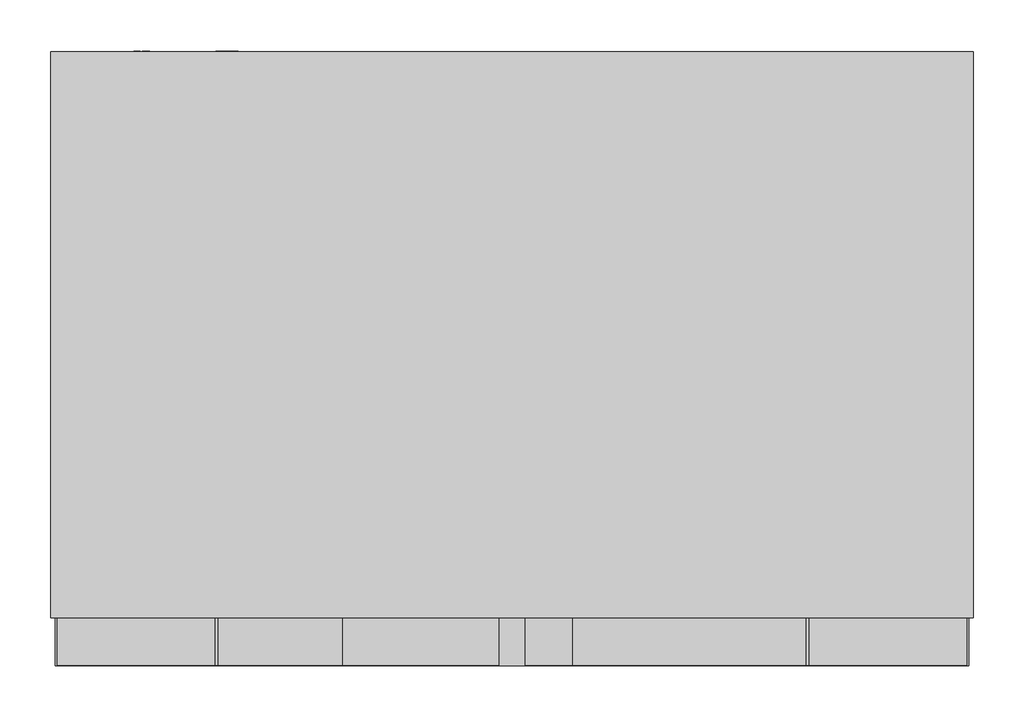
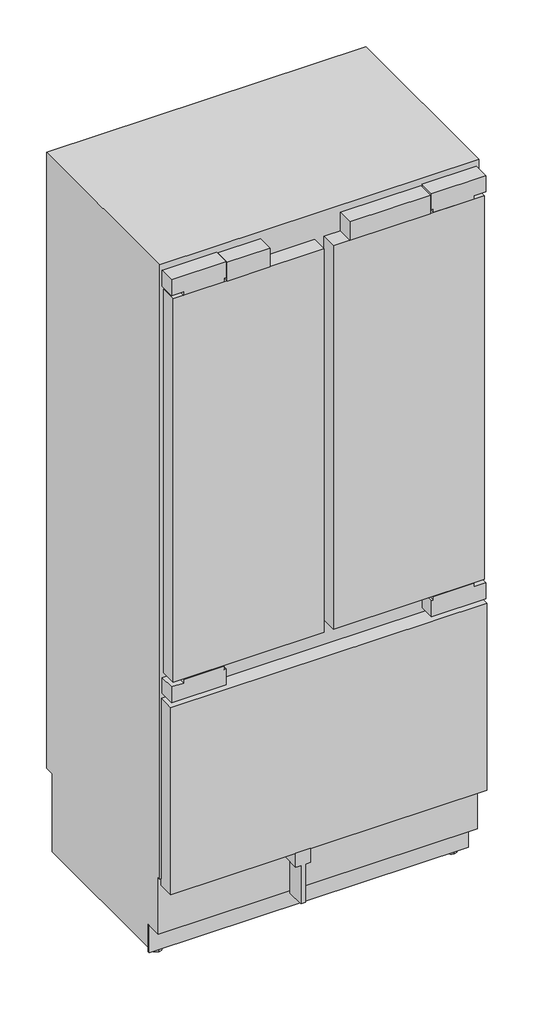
# Not in any storey: 1 proxy.
"""IFC4 building model written with IfcOpenShell, lengths in millimetres."""

import ifcopenshell
import ifcopenshell.guid

model = None  # the IFC model being written
_history = None  # IfcOwnerHistory: only IFC2X3 demands one
_inside = {}  # id of a spatial element -> (the spatial element, [elements in it])
_under = {}  # id of a project, library or spatial element -> (it, [spatial elements below it])
_declared = {}  # id of a project -> (the project, [libraries it declares])
_typed = {}  # id of a type object -> (the type object, [elements of that type])
_made_of = {}  # id of a material, layer set ... -> (it, [elements and type objects made of it])


def new_model(schema):
    """Start an empty IFC model of exactly this schema.

    Asked for "IFC4X3", IfcOpenShell would pick the latest addendum, in which some entities
    have other attributes; the version numbers below select the first issue.
    IFC2X3 requires an IfcOwnerHistory on every rooted entity: one is made here for all.
    """
    global model, _history
    if schema == "IFC4X3":
        model = ifcopenshell.file(schema_version=(4, 3, 0, 0))
    else:
        model = ifcopenshell.file(schema=schema)
    _inside.clear()
    _under.clear()
    _declared.clear()
    _typed.clear()
    _made_of.clear()
    _history = None
    if model.schema == "IFC2X3":
        org = make("IfcOrganization", Name="unknown")
        user = make(
            "IfcPersonAndOrganization",
            ThePerson=make("IfcPerson", FamilyName="unknown"),
            TheOrganization=org,
        )
        app = make(
            "IfcApplication",
            ApplicationDeveloper=org,
            Version="unknown",
            ApplicationFullName="unknown",
            ApplicationIdentifier="unknown",
        )
        _history = make(
            "IfcOwnerHistory",
            OwningUser=user,
            OwningApplication=app,
            ChangeAction="ADDED",
            CreationDate=0,
        )
    return model


def make(cls, **values):
    """One entity of the class cls with the attributes given. An attribute that is None is left unset."""
    return model.create_entity(
        cls, **{name: value for name, value in values.items() if value is not None}
    )


def rooted(cls, **values):
    """An entity with a GlobalId (a new one), such as an element, a storey or a relation."""
    return make(cls, GlobalId=ifcopenshell.guid.new(), OwnerHistory=_history, **values)


def si_unit(unit_type, name, prefix=None):
    """IfcSIUnit, for example si_unit("LENGTHUNIT", "METRE", prefix="MILLI")."""
    return make("IfcSIUnit", UnitType=unit_type, Prefix=prefix, Name=name)


def assignment(units):
    """IfcUnitAssignment: the units of a project."""
    return None if units is None else make("IfcUnitAssignment", Units=units)


def point(xyz):
    """IfcCartesianPoint."""
    return None if xyz is None else make("IfcCartesianPoint", Coordinates=xyz)


def direction(xyz):
    """IfcDirection."""
    return None if xyz is None else make("IfcDirection", DirectionRatios=xyz)


def frame(location, z_axis=None, x_axis=None):
    """IfcAxis2Placement3D, a coordinate frame: its origin and axes. An axis left out is left unset."""
    return make(
        "IfcAxis2Placement3D",
        Location=point(location),
        Axis=direction(z_axis),
        RefDirection=direction(x_axis),
    )


def frame_2d(location, x_axis=None):
    """IfcAxis2Placement2D, a coordinate frame in the plane: its origin and x axis."""
    return make(
        "IfcAxis2Placement2D", Location=point(location), RefDirection=direction(x_axis)
    )


def origin():
    """The frame at (0, 0, 0) with its axes left unset."""
    return frame((0.0, 0.0, 0.0))


def place(relative_to, where):
    """IfcLocalPlacement: puts the frame where relative to a parent placement (None: the world)."""
    return make(
        "IfcLocalPlacement", PlacementRelTo=relative_to, RelativePlacement=where
    )


def context(
    kind, dimensions, precision=None, world=None, true_north=None, identifier=None
):
    """IfcGeometricRepresentationContext, for example the 3D "Model" context."""
    return make(
        "IfcGeometricRepresentationContext",
        ContextIdentifier=identifier,
        ContextType=kind,
        CoordinateSpaceDimension=dimensions,
        Precision=precision,
        WorldCoordinateSystem=world,
        TrueNorth=true_north,
    )


def project(units=None, contexts=None):
    """IfcProject with its units and contexts."""
    return rooted(
        "IfcProject",
        Name="project",
        RepresentationContexts=contexts,
        UnitsInContext=assignment(units),
    )


def spatial(cls, under=None, at=None, **own):
    """A site, building, storey or space (cls), placed at a placement, below another one or the project."""
    s = rooted(cls, ObjectPlacement=at, **own)
    if under is not None:
        _under.setdefault(under.id(), (under, []))[1].append(s)
    return s


def polyline(points):
    """IfcPolyline through the points."""
    return make("IfcPolyline", Points=[point(p) for p in points])


def circle_curve(where, radius):
    """IfcCircle in the frame where."""
    return make("IfcCircle", Position=where, Radius=radius)


def trimmed(basis, trim1, trim2, sense, master):
    """IfcTrimmedCurve: the piece of a basis curve between two trims."""
    return make(
        "IfcTrimmedCurve",
        BasisCurve=basis,
        Trim1=trim1,
        Trim2=trim2,
        SenseAgreement=sense,
        MasterRepresentation=master,
    )


def segment(curve, same_sense, transition):
    """IfcCompositeCurveSegment."""
    return make(
        "IfcCompositeCurveSegment",
        Transition=transition,
        SameSense=same_sense,
        ParentCurve=curve,
    )


def composite_curve(segments, self_intersect=None):
    """IfcCompositeCurve: segments joined end to end."""
    return make("IfcCompositeCurve", Segments=segments, SelfIntersect=self_intersect)


def outline(outer, holes=None, kind="AREA"):
    """IfcArbitraryClosedProfileDef: a profile drawn as a closed curve; with holes, ...WithVoids."""
    if holes is None:
        return make("IfcArbitraryClosedProfileDef", ProfileType=kind, OuterCurve=outer)
    return make(
        "IfcArbitraryProfileDefWithVoids",
        ProfileType=kind,
        OuterCurve=outer,
        InnerCurves=holes,
    )


def extrude(swept, where, along, depth):
    """IfcExtrudedAreaSolid: the profile swept, set in the frame where, extruded along a direction by depth."""
    return make(
        "IfcExtrudedAreaSolid",
        SweptArea=swept,
        Position=where,
        ExtrudedDirection=direction(along),
        Depth=depth,
    )


def shape(context_of_items, identifier, shape_type, items):
    """IfcShapeRepresentation: the items that make up one representation, for example the "Body"."""
    return make(
        "IfcShapeRepresentation",
        ContextOfItems=context_of_items,
        RepresentationIdentifier=identifier,
        RepresentationType=shape_type,
        Items=items,
    )


def source(mapping_origin, context_of_items, identifier, shape_type, items):
    """IfcRepresentationMap: a shape defined once, which mapped items show again and again."""
    return make(
        "IfcRepresentationMap",
        MappingOrigin=mapping_origin,
        MappedRepresentation=shape(context_of_items, identifier, shape_type, items),
    )


def transform(
    local_origin,
    x_axis=None,
    y_axis=None,
    z_axis=None,
    scale=None,
    scale2=None,
    scale3=None,
    uniform=True,
):
    """IfcCartesianTransformationOperator3D, or its non-uniform kind. x_axis, y_axis, z_axis: its Axis1, 2, 3."""
    if uniform:
        return make(
            "IfcCartesianTransformationOperator3D",
            Axis1=direction(x_axis),
            Axis2=direction(y_axis),
            LocalOrigin=point(local_origin),
            Scale=scale,
            Axis3=direction(z_axis),
        )
    return make(
        "IfcCartesianTransformationOperator3DnonUniform",
        Axis1=direction(x_axis),
        Axis2=direction(y_axis),
        LocalOrigin=point(local_origin),
        Scale=scale,
        Axis3=direction(z_axis),
        Scale2=scale2,
        Scale3=scale3,
    )


def mapped(mapping_source, mapping_target):
    """IfcMappedItem: shows the shape of a source again, moved by a transform."""
    return make(
        "IfcMappedItem", MappingSource=mapping_source, MappingTarget=mapping_target
    )


def made_of(thing, what):
    """Note that an element or type object is made of a material, layer set ...; save() writes the relation."""
    if what is not None:
        _made_of.setdefault(what.id(), (what, []))[1].append(thing)
    return thing


def element(
    cls,
    number,
    at=None,
    inside=None,
    cuts=None,
    type_object=None,
    material=None,
    context=None,
    identifier="Body",
    shape_type=None,
    held_by="IfcProductDefinitionShape",
    body=None,
    shapes=None,
    **own,
):
    """One element of the class cls, such as IfcWall. Its Tag is "e" and its number.

    at: its placement. inside: the storey or other place that contains it. cuts: it is an
    opening in that element (IfcRelVoidsElement). A single representation is given by context,
    identifier, shape_type and body (its items); several are given by shapes. held_by: the class
    of the entity that holds the representations. save() writes the other relations.
    """
    e = rooted(cls, Tag="e%d" % number, ObjectPlacement=at, **own)
    if body is not None:
        shapes = [shape(context, identifier, shape_type, body)]
    if shapes is not None:
        e.Representation = make(held_by, Representations=shapes)
    if inside is not None:
        _inside.setdefault(inside.id(), (inside, []))[1].append(e)
    if cuts is not None:
        rooted(
            "IfcRelVoidsElement", RelatingBuildingElement=cuts, RelatedOpeningElement=e
        )
    if type_object is not None:
        _typed.setdefault(type_object.id(), (type_object, []))[1].append(e)
    return made_of(e, material)


def aggregate(whole, parts):
    """IfcRelAggregates: a whole, such as a stair, and the parts it consists of."""
    return rooted("IfcRelAggregates", RelatingObject=whole, RelatedObjects=parts)


def save(model, path):
    """Write the relations noted so far, then the file.

    IfcRelAggregates (storeys below a building ...), IfcRelContainedInSpatialStructure (elements
    in a storey), IfcRelDefinesByType, IfcRelAssociatesMaterial and IfcRelDeclares: one each for
    every whole, place, type object, material and project.
    """
    for whole, parts in _under.values():
        aggregate(whole, parts)
    for where, things in _inside.values():
        rooted(
            "IfcRelContainedInSpatialStructure",
            RelatedElements=things,
            RelatingStructure=where,
        )
    for kind, things in _typed.values():
        rooted("IfcRelDefinesByType", RelatedObjects=things, RelatingType=kind)
    for what, things in _made_of.values():
        rooted("IfcRelAssociatesMaterial", RelatedObjects=things, RelatingMaterial=what)
    for by, libraries in _declared.values():
        rooted("IfcRelDeclares", RelatingContext=by, RelatedDefinitions=libraries)
    model.write(path)


def plane_surface(at):
    """IfcPlane: the flat surface through the origin of the frame at, square to its z axis."""
    return make("IfcPlane", Position=at)


def cylinder_surface(at, radius):
    """IfcCylindricalSurface: all points at the distance radius from the z axis of the frame at."""
    return make("IfcCylindricalSurface", Position=at, Radius=radius)


def advanced_brep(points, edges, surfaces, faces):
    """IfcAdvancedBrep: a solid bounded by faces that lie on surfaces and meet in shared edges.

    An edge is (start, end): straight between two places in points (the first is 0);
    or (start, end, curve); or (start, end, curve, False) where it runs against its curve.
    A face is (place in surfaces, loops), or (place, loops, False) where it looks against
    its surface's normal. A loop lists edges by number (the first is 1), with a minus sign
    where the edge is run from its end to its start. The first loop is the outer one.
    """
    corners = [point(p) for p in points]
    vertices = [make("IfcVertexPoint", VertexGeometry=c) for c in corners]
    made = []
    for start, end, *more in edges:
        made.append(
            make(
                "IfcEdgeCurve",
                EdgeStart=vertices[start],
                EdgeEnd=vertices[end],
                EdgeGeometry=more[0] if more else make("IfcPolyline", Points=[corners[start], corners[end]]),
                SameSense=more[1] if len(more) > 1 else True,
            )
        )
    hull = []
    for where, loops, *sense in faces:
        bounds = []
        for j, loop in enumerate(loops):
            ring = [make("IfcOrientedEdge", EdgeElement=made[abs(k) - 1], Orientation=k > 0) for k in loop]
            bounds.append(
                make(
                    "IfcFaceOuterBound" if j == 0 else "IfcFaceBound",
                    Bound=make("IfcEdgeLoop", EdgeList=ring),
                    Orientation=True,
                )
            )
        hull.append(make("IfcAdvancedFace", Bounds=bounds, FaceSurface=surfaces[where], SameSense=sense[0] if sense else True))
    return make("IfcAdvancedBrep", Outer=make("IfcClosedShell", CfsFaces=hull))


def specialty_equipment_7bc0b81a(model_context):
    return source(origin(), model_context, "Body", "SolidModel", [
        extrude(outline(polyline([(60.0, 47.0), (289.0, 47.0), (289.0, 0.0), (60.0, 0.0), (60.0, 47.0)])), frame((0.0, 0.0, 2036.0), z_axis=(0.0, 0.0, 1.0), x_axis=(1.0, 0.0, 0.0)), (0.0, 0.0, 1.0), 56.0),
        extrude(outline(polyline([(-289.0, 47.0), (-167.0, 47.0), (-167.0, 0.0), (-289.0, 0.0), (-289.0, 47.0)])), frame((0.0, 0.0, 2036.0), z_axis=(0.0, 0.0, 1.0), x_axis=(1.0, 0.0, 0.0)), (0.0, 0.0, 1.0), 56.0),
        extrude(outline(polyline([(247.0, -94.0), (205.0, -94.0), (205.0, -79.5), (90.0, -79.5), (90.0, -66.5), (205.0, -66.5), (205.0, -52.0), (247.0, -52.0), (247.0, -94.0)])), frame((0.0, 0.0, 0.0), z_axis=(0.0, 1.0, 0.0), x_axis=(0.0, 0.0, 1.0)), (0.0, 0.0, 1.0), 54.0),
        extrude(outline(polyline([(-51.5, 90.0), (51.5, 90.0), (51.5, 47.0), (-51.5, 47.0), (-51.5, 90.0)])), frame((0.0, 0.0, 921.0), z_axis=(0.0, 0.0, 1.0), x_axis=(1.0, 0.0, 0.0)), (0.0, 0.0, 1.0), 1069.0),
        extrude(outline(polyline([(-443.0, 47.0), (-13.0, 47.0), (-13.0, 0.0), (-443.0, 0.0), (-443.0, 47.0)])), frame((0.0, 0.0, 883.0), z_axis=(0.0, 0.0, 1.0), x_axis=(1.0, 0.0, 0.0)), (0.0, 0.0, 1.0), 1153.0),
        extrude(outline(polyline([(13.0, 47.0), (443.0, 47.0), (443.0, 0.0), (13.0, 0.0), (13.0, 47.0)])), frame((0.0, 0.0, 883.0), z_axis=(0.0, 0.0, 1.0), x_axis=(1.0, 0.0, 0.0)), (0.0, 0.0, 1.0), 1153.0),
        extrude(outline(polyline([(-449.5, 47.0), (449.5, 47.0), (449.5, 0.0), (-449.5, 0.0), (-449.5, 47.0)])), frame((0.0, 0.0, 247.0), z_axis=(0.0, 0.0, 1.0), x_axis=(1.0, 0.0, 0.0)), (0.0, 0.0, 1.0), 562.0),
        extrude(outline(polyline([(180.5, 1973.4), (217.625, 1914.0), (216.4457524, 1914.0), (179.3207524, 1973.4), (180.5, 1973.4)])), frame((-69.0, 0.0, 0.0), z_axis=(1.0, 0.0, 0.0), x_axis=(0.0, 1.0, 0.0)), (0.0, 0.0, 1.0), 138.0),
        extrude(outline(polyline([(544.0, 1998.0), (544.0, 1796.0), (474.0, 1796.0), (433.0, 1907.0), (222.0, 1907.0), (177.0, 1979.0), (129.0, 1998.0), (544.0, 1998.0)])), frame((-408.0, 0.0, 0.0), z_axis=(1.0, 0.0, 0.0), x_axis=(0.0, 1.0, 0.0)), (0.0, 0.0, 1.0), 816.0),
        extrude(outline(polyline([(-408.0, 544.0), (408.0, 544.0), (408.0, 519.0), (-408.0, 519.0), (-408.0, 544.0)])), frame((0.0, 0.0, 303.0), z_axis=(0.0, 0.0, 1.0), x_axis=(1.0, 0.0, 0.0)), (0.0, 0.0, 1.0), 467.0),
        extrude(outline(polyline([(-408.0, 544.0), (408.0, 544.0), (408.0, 47.0), (-408.0, 47.0), (-408.0, 544.0)])), frame((0.0, 0.0, 770.0), z_axis=(0.0, 0.0, 1.0), x_axis=(1.0, 0.0, 0.0)), (0.0, 0.0, 1.0), 144.0),
        extrude(outline(polyline([(46.0510837, -279.101717), (37.4134902, -281.1745179), (46.0453554, -283.6868463), (46.0453554, -285.5601414), (37.4089549, -288.0799633), (46.0493903, -290.1581876), (46.0493903, -291.4649805), (36.0005458, -288.7156324), (36.0005458, -287.372208), (44.8261022, -284.6342221), (35.9987467, -282.0620509), (35.9987287, -280.5451466), (46.0510837, -277.800191), (46.0510837, -279.101717)])), frame((0.0, 604.0, 0.0), z_axis=(0.0, 1.0, 0.0), x_axis=(0.0, 0.0, 1.0)), (0.0, 0.0, 1.0), 1.0),
        extrude(outline(polyline([(46.0485238, -270.7401503), (41.1363122, -270.7401503), (46.0468162, -275.884602), (46.0468162, -277.6328316), (41.9156889, -273.3260313), (36.000035, -277.8032231), (36.000035, -276.2795519), (41.0742849, -272.4391666), (39.4525334, -270.7395503), (35.9999292, -270.7395503), (35.9999292, -269.4795491), (46.0485238, -269.4795491), (46.0485238, -270.7401503)])), frame((0.0, 604.0, 0.0), z_axis=(0.0, 1.0, 0.0), x_axis=(0.0, 0.0, 1.0)), (0.0, 0.0, 1.0), 1.0),
        extrude(outline(composite_curve([segment(trimmed(circle_curve(frame_2d((41.0, -280.0)), 7.5), [point((33.5, -280.0))], [point((48.5, -280.0))], False, "CARTESIAN"), True, "CONTINUOUS"), segment(trimmed(circle_curve(frame_2d((41.0, -280.0)), 7.5), [point((48.5, -280.0))], [point((33.5, -280.0))], False, "CARTESIAN"), True, "CONTINUOUS")], self_intersect=False)), frame((0.0, 577.0, 0.0), z_axis=(0.0, 1.0, 0.0), x_axis=(0.0, 0.0, 1.0)), (0.0, 0.0, 1.0), 27.0),
        extrude(outline(polyline([(2095.0, 447.5), (2095.0, 292.5), (2047.0, 292.5), (2047.0, 298.5), (2036.5, 298.5), (2036.5, 413.5), (2047.0, 413.5), (2047.0, 447.5), (2095.0, 447.5)])), frame((0.0, 0.0, 0.0), z_axis=(0.0, 1.0, 0.0), x_axis=(0.0, 0.0, 1.0)), (0.0, 0.0, 1.0), 47.0),
        extrude(outline(polyline([(2095.0, -447.5), (2047.0, -447.5), (2047.0, -413.5), (2036.5, -413.5), (2036.5, -298.5), (2047.0, -298.5), (2047.0, -292.5), (2095.0, -292.5), (2095.0, -447.5)])), frame((0.0, 0.0, 0.0), z_axis=(0.0, 1.0, 0.0), x_axis=(0.0, 0.0, 1.0)), (0.0, 0.0, 1.0), 47.0),
        extrude(outline(polyline([(871.0, -447.5), (823.0, -447.5), (823.0, -292.5), (871.0, -292.5), (871.0, -298.5), (881.0, -298.5), (881.0, -413.5), (871.0, -413.5), (871.0, -447.5)])), frame((0.0, 0.0, 0.0), z_axis=(0.0, 1.0, 0.0), x_axis=(0.0, 0.0, 1.0)), (0.0, 0.0, 1.0), 47.0),
        extrude(outline(polyline([(871.0, 292.5), (823.0, 292.5), (823.0, 447.5), (871.0, 447.5), (871.0, 413.5), (881.0, 413.5), (881.0, 298.5), (871.0, 298.5), (871.0, 292.5)])), frame((0.0, 0.0, 0.0), z_axis=(0.0, 1.0, 0.0), x_axis=(0.0, 0.0, 1.0)), (0.0, 0.0, 1.0), 47.0),
        extrude(outline(polyline([(99.0373308, -363.7645771), (97.7615342, -363.7645771), (97.7615342, -357.8195541), (94.7968516, -357.8195541), (94.7968516, -363.469579), (93.5246295, -363.469579), (93.5246295, -357.8415693), (90.2570046, -357.8415693), (90.2570046, -363.9619689), (88.9546219, -363.9619689), (88.9546219, -356.5443524), (99.0373308, -356.5443524), (99.0373308, -363.7645771)])), frame((0.0, 604.0, 0.0), z_axis=(0.0, 1.0, 0.0), x_axis=(0.0, 0.0, 1.0)), (0.0, 0.0, 1.0), 1.0),
        extrude(outline(polyline([(99.0458, -367.0619704), (90.2663944, -367.0619704), (90.2663944, -372.1145879), (89.0134802, -372.1145879), (89.0134802, -365.8423809), (99.0458, -365.8423809), (99.0458, -367.0619704)])), frame((0.0, 604.0, 0.0), z_axis=(0.0, 1.0, 0.0), x_axis=(0.0, 0.0, 1.0)), (0.0, 0.0, 1.0), 1.0),
        extrude(outline(composite_curve([segment(trimmed(circle_curve(frame_2d((94.0, -364.0)), 7.5), [point((86.5, -364.0))], [point((101.5, -364.0))], False, "CARTESIAN"), True, "CONTINUOUS"), segment(trimmed(circle_curve(frame_2d((94.0, -364.0)), 7.5), [point((101.5, -364.0))], [point((86.5, -364.0))], False, "CARTESIAN"), True, "CONTINUOUS")], self_intersect=False)), frame((0.0, 577.0, 0.0), z_axis=(0.0, 1.0, 0.0), x_axis=(0.0, 0.0, 1.0)), (0.0, 0.0, 1.0), 27.0),
        extrude(outline(polyline([(-454.0, 104.0), (454.0, 104.0), (454.0, 99.0), (-454.0, 99.0), (-454.0, 104.0)])), frame((0.0, 0.0, 14.0), z_axis=(0.0, 0.0, 1.0), x_axis=(1.0, 0.0, 0.0)), (0.0, 0.0, 1.0), 83.0),
        advanced_brep(
        [(-420.0, 139.0, 0.0), (-420.0, 109.0, 0.0), (-420.0, 139.0, 7.0), (-420.0, 109.0, 7.0), (-420.0, 128.7, 7.0), (-420.0, 119.3, 7.0), (-420.0, 128.7, 28.0), (-420.0, 119.3, 28.0)],
        [
            (0, 1, circle_curve(frame((-420.0, 124.0, 0.0), z_axis=(0.0, 0.0, -1.0), x_axis=(1.0, 0.0, 0.0)), 15.0)),
            (1, 0, circle_curve(frame((-420.0, 124.0, 0.0), z_axis=(0.0, 0.0, -1.0), x_axis=(1.0, 0.0, 0.0)), 15.0)),
            (2, 3, circle_curve(frame((-420.0, 124.0, 7.0), z_axis=(0.0, 0.0, 1.0), x_axis=(1.0, 0.0, 0.0)), 15.0)),
            (3, 2, circle_curve(frame((-420.0, 124.0, 7.0), z_axis=(0.0, 0.0, 1.0), x_axis=(1.0, 0.0, 0.0)), 15.0)),
            (4, 5, circle_curve(frame((-420.0, 124.0, 7.0), z_axis=(0.0, 0.0, -1.0), x_axis=(0.0, -1.0, 0.0)), 4.7)),
            (5, 4, circle_curve(frame((-420.0, 124.0, 7.0), z_axis=(0.0, 0.0, -1.0), x_axis=(0.0, -1.0, 0.0)), 4.7)),
            (0, 2),
            (3, 1),
            (6, 7, circle_curve(frame((-420.0, 124.0, 28.0), z_axis=(0.0, 0.0, 1.0), x_axis=(0.0, -1.0, 0.0)), 4.7)),
            (7, 6, circle_curve(frame((-420.0, 124.0, 28.0), z_axis=(0.0, 0.0, 1.0), x_axis=(0.0, -1.0, 0.0)), 4.7)),
            (7, 5),
            (4, 6),
        ],
        [
            plane_surface(frame((-405.0, 124.0, 0.0), z_axis=(0.0, 0.0, -1.0), x_axis=(0.0, -1.0, 0.0))),
            plane_surface(frame((-405.0, 124.0, 7.0), z_axis=(0.0, 0.0, 1.0), x_axis=(0.0, 1.0, 0.0))),
            cylinder_surface(frame((-420.0, 124.0, 7.0), z_axis=(0.0, 0.0, -1.0), x_axis=(1.0, 0.0, 0.0)), 15.0),
            plane_surface(frame((-420.0, 119.3, 28.0), z_axis=(0.0, 0.0, 1.0), x_axis=(1.0, 0.0, 0.0))),
            cylinder_surface(frame((-420.0, 124.0, 28.0), z_axis=(0.0, 0.0, -1.0), x_axis=(0.0, -1.0, 0.0)), 4.7),
        ],
        [
            (0, [[1, 2]]),
            (1, [[3, 4], [5, 6]]),
            (2, [[-1, 7, -4, 8]]),
            (2, [[-2, -8, -3, -7]]),
            (3, [[9, 10]]),
            (4, [[-10, 11, -5, 12]]),
            (4, [[-9, -12, -6, -11]]),
        ],
    ),
        advanced_brep(
        [(420.0, 139.0, 0.0), (420.0, 109.0, 0.0), (420.0, 139.0, 7.0), (420.0, 109.0, 7.0), (420.0, 128.7, 7.0), (420.0, 119.3, 7.0), (420.0, 128.7, 28.0), (420.0, 119.3, 28.0)],
        [
            (0, 1, circle_curve(frame((420.0, 124.0, 0.0), z_axis=(0.0, 0.0, -1.0), x_axis=(1.0, 0.0, 0.0)), 15.0)),
            (1, 0, circle_curve(frame((420.0, 124.0, 0.0), z_axis=(0.0, 0.0, -1.0), x_axis=(1.0, 0.0, 0.0)), 15.0)),
            (2, 3, circle_curve(frame((420.0, 124.0, 7.0), z_axis=(0.0, 0.0, 1.0), x_axis=(1.0, 0.0, 0.0)), 15.0)),
            (3, 2, circle_curve(frame((420.0, 124.0, 7.0), z_axis=(0.0, 0.0, 1.0), x_axis=(1.0, 0.0, 0.0)), 15.0)),
            (4, 5, circle_curve(frame((420.0, 124.0, 7.0), z_axis=(0.0, 0.0, -1.0), x_axis=(0.0, -1.0, 0.0)), 4.7)),
            (5, 4, circle_curve(frame((420.0, 124.0, 7.0), z_axis=(0.0, 0.0, -1.0), x_axis=(0.0, -1.0, 0.0)), 4.7)),
            (0, 2),
            (3, 1),
            (6, 7, circle_curve(frame((420.0, 124.0, 28.0), z_axis=(0.0, 0.0, 1.0), x_axis=(0.0, -1.0, 0.0)), 4.7)),
            (7, 6, circle_curve(frame((420.0, 124.0, 28.0), z_axis=(0.0, 0.0, 1.0), x_axis=(0.0, -1.0, 0.0)), 4.7)),
            (7, 5),
            (4, 6),
        ],
        [
            plane_surface(frame((-405.0, 124.0, 0.0), z_axis=(0.0, 0.0, -1.0), x_axis=(0.0, -1.0, 0.0))),
            plane_surface(frame((-405.0, 124.0, 7.0), z_axis=(0.0, 0.0, 1.0), x_axis=(0.0, 1.0, 0.0))),
            cylinder_surface(frame((420.0, 124.0, 7.0), z_axis=(0.0, 0.0, -1.0), x_axis=(1.0, 0.0, 0.0)), 15.0),
            plane_surface(frame((-420.0, 119.3, 28.0), z_axis=(0.0, 0.0, 1.0), x_axis=(1.0, 0.0, 0.0))),
            cylinder_surface(frame((420.0, 124.0, 28.0), z_axis=(0.0, 0.0, -1.0), x_axis=(0.0, -1.0, 0.0)), 4.7),
        ],
        [
            (0, [[1, 2]]),
            (1, [[3, 4], [5, 6]]),
            (2, [[-1, 7, -4, 8]]),
            (2, [[-2, -8, -3, -7]]),
            (3, [[9, 10]]),
            (4, [[-10, 11, -5, 12]]),
            (4, [[-9, -12, -6, -11]]),
        ],
    ),
        advanced_brep(
        [(454.0, 47.0, 2114.0), (454.0, 47.0, 267.0), (454.0, 54.0, 267.0), (454.0, 54.0, 97.0), (454.0, 104.0, 97.0), (454.0, 104.0, 28.0), (454.0, 577.0, 28.0), (454.0, 577.0, 263.0), (454.0, 604.0, 263.0), (454.0, 604.0, 2114.0), (-454.0, 47.0, 2114.0), (-454.0, 604.0, 2114.0), (-454.0, 604.0, 263.0), (-454.0, 577.0, 263.0), (-454.0, 577.0, 28.0), (-454.0, 104.0, 28.0), (-454.0, 104.0, 97.0), (-454.0, 54.0, 97.0), (-454.0, 54.0, 267.0), (-454.0, 47.0, 267.0), (394.0, 577.0, 28.0), (394.0, 577.0, 14.0), (-394.0, 577.0, 14.0), (-394.0, 577.0, 28.0), (394.0, 104.0, 14.0), (-394.0, 104.0, 14.0), (-394.0, 104.0, 28.0), (394.0, 104.0, 28.0), (408.0, 47.0, 1998.0), (408.0, 47.0, 303.0), (-408.0, 47.0, 303.0), (-408.0, 47.0, 1998.0), (408.0, 544.0, 1998.0), (-408.0, 544.0, 1998.0), (-408.0, 544.0, 303.0), (408.0, 544.0, 303.0), (-412.5, 202.8193473, 28.0), (-431.5, 202.8193473, 28.0), (-431.5, 153.1806527, 28.0), (-412.5, 153.1806527, 28.0), (-432.0, 525.8193473, 28.0), (-432.0, 476.1806527, 28.0), (-416.0, 476.1806527, 28.0), (-416.0, 525.8193473, 28.0), (431.5, 153.1806527, 28.0), (431.5, 202.8193473, 28.0), (412.5, 202.8193473, 28.0), (412.5, 153.1806527, 28.0), (416.0, 525.8193473, 28.0), (416.0, 476.1806527, 28.0), (432.0, 476.1806527, 28.0), (432.0, 525.8193473, 28.0), (-412.5, 203.0, 25.0), (-412.5, 153.0, 25.0), (-431.5, 153.0, 25.0), (-431.5, 203.0, 25.0), (-412.5, 178.0, 25.0), (-431.5, 178.0, 25.0), (431.5, 178.0, 25.0), (431.5, 153.0, 25.0), (431.5, 203.0, 25.0), (412.5, 203.0, 25.0), (412.5, 153.0, 25.0), (412.5, 178.0, 25.0), (-432.0, 526.0, 25.0), (-432.0, 476.0, 25.0), (-432.0, 501.0, 25.0), (-416.0, 526.0, 25.0), (-416.0, 476.0, 25.0), (-416.0, 501.0, 25.0), (416.0, 526.0, 25.0), (416.0, 476.0, 25.0), (416.0, 501.0, 25.0), (432.0, 526.0, 25.0), (432.0, 476.0, 25.0), (432.0, 501.0, 25.0)],
        [
            (0, 1),
            (1, 2),
            (2, 3),
            (3, 4),
            (4, 5),
            (5, 6),
            (6, 7),
            (7, 8),
            (8, 9),
            (9, 0),
            (10, 11),
            (11, 12),
            (12, 13),
            (13, 14),
            (14, 15),
            (15, 16),
            (16, 17),
            (17, 18),
            (18, 19),
            (19, 10),
            (9, 11),
            (10, 0),
            (8, 12),
            (7, 13),
            (6, 20),
            (20, 21),
            (21, 22),
            (22, 23),
            (23, 14),
            (21, 24),
            (24, 25),
            (25, 22),
            (4, 16),
            (15, 26),
            (26, 25),
            (24, 27),
            (27, 5),
            (3, 17),
            (2, 18),
            (1, 19),
            (28, 29),
            (29, 30),
            (30, 31),
            (31, 28),
            (32, 33),
            (33, 34),
            (34, 35),
            (35, 32),
            (35, 29),
            (28, 32),
            (34, 30),
            (33, 31),
            (23, 26),
            (36, 37),
            (37, 38),
            (38, 39),
            (39, 36),
            (40, 41),
            (41, 42),
            (42, 43),
            (43, 40),
            (27, 20),
            (44, 45),
            (45, 46),
            (46, 47),
            (47, 44),
            (48, 49),
            (49, 50),
            (50, 51),
            (51, 48),
            (52, 53, circle_curve(frame((-412.5, 178.0, 25.0), z_axis=(-1.0, 0.0, 0.0), x_axis=(0.0, -1.0, 0.0)), 25.0)),
            (53, 54),
            (54, 55, circle_curve(frame((-431.5, 178.0, 25.0), z_axis=(1.0, 0.0, 0.0), x_axis=(0.0, -1.0, 0.0)), 25.0)),
            (55, 52),
            (53, 39, circle_curve(frame((-412.5, 178.0, 25.0), z_axis=(-1.0, 0.0, 0.0), x_axis=(0.0, -1.0, 0.0)), 25.0)),
            (38, 54, circle_curve(frame((-431.5, 178.0, 25.0), z_axis=(1.0, 0.0, 0.0), x_axis=(0.0, -1.0, 0.0)), 25.0)),
            (55, 37, circle_curve(frame((-431.5, 178.0, 25.0), z_axis=(1.0, 0.0, 0.0), x_axis=(0.0, -1.0, 0.0)), 25.0)),
            (36, 52, circle_curve(frame((-412.5, 178.0, 25.0), z_axis=(-1.0, 0.0, 0.0), x_axis=(0.0, -1.0, 0.0)), 25.0)),
            (52, 56),
            (56, 53),
            (54, 57),
            (57, 55),
            (58, 59),
            (59, 60, circle_curve(frame((431.5, 178.0, 25.0), z_axis=(1.0, 0.0, 0.0), x_axis=(0.0, -1.0, 0.0)), 25.0)),
            (60, 58),
            (60, 45, circle_curve(frame((431.5, 178.0, 25.0), z_axis=(1.0, 0.0, 0.0), x_axis=(0.0, -1.0, 0.0)), 25.0)),
            (44, 59, circle_curve(frame((431.5, 178.0, 25.0), z_axis=(1.0, 0.0, 0.0), x_axis=(0.0, -1.0, 0.0)), 25.0)),
            (61, 62, circle_curve(frame((412.5, 178.0, 25.0), z_axis=(-1.0, 0.0, 0.0), x_axis=(0.0, -1.0, 0.0)), 25.0)),
            (62, 63),
            (63, 61),
            (62, 47, circle_curve(frame((412.5, 178.0, 25.0), z_axis=(-1.0, 0.0, 0.0), x_axis=(0.0, -1.0, 0.0)), 25.0)),
            (46, 61, circle_curve(frame((412.5, 178.0, 25.0), z_axis=(-1.0, 0.0, 0.0), x_axis=(0.0, -1.0, 0.0)), 25.0)),
            (64, 65, circle_curve(frame((-432.0, 501.0, 25.0), z_axis=(-1.0, 0.0, 0.0), x_axis=(0.0, -1.0, 0.0)), 25.0)),
            (65, 66),
            (66, 64),
            (65, 41, circle_curve(frame((-432.0, 501.0, 25.0), z_axis=(-1.0, 0.0, 0.0), x_axis=(0.0, -1.0, 0.0)), 25.0)),
            (40, 64, circle_curve(frame((-432.0, 501.0, 25.0), z_axis=(-1.0, 0.0, 0.0), x_axis=(0.0, -1.0, 0.0)), 25.0)),
            (64, 67),
            (67, 68, circle_curve(frame((-416.0, 501.0, 25.0), z_axis=(-1.0, 0.0, 0.0), x_axis=(0.0, -1.0, 0.0)), 25.0)),
            (68, 65),
            (43, 67, circle_curve(frame((-416.0, 501.0, 25.0), z_axis=(-1.0, 0.0, 0.0), x_axis=(0.0, -1.0, 0.0)), 25.0)),
            (68, 42, circle_curve(frame((-416.0, 501.0, 25.0), z_axis=(-1.0, 0.0, 0.0), x_axis=(0.0, -1.0, 0.0)), 25.0)),
            (67, 69),
            (69, 68),
            (70, 71, circle_curve(frame((416.0, 501.0, 25.0), z_axis=(-1.0, 0.0, 0.0), x_axis=(0.0, -1.0, 0.0)), 25.0)),
            (71, 72),
            (72, 70),
            (71, 49, circle_curve(frame((416.0, 501.0, 25.0), z_axis=(-1.0, 0.0, 0.0), x_axis=(0.0, -1.0, 0.0)), 25.0)),
            (48, 70, circle_curve(frame((416.0, 501.0, 25.0), z_axis=(-1.0, 0.0, 0.0), x_axis=(0.0, -1.0, 0.0)), 25.0)),
            (70, 73),
            (73, 74, circle_curve(frame((432.0, 501.0, 25.0), z_axis=(-1.0, 0.0, 0.0), x_axis=(0.0, -1.0, 0.0)), 25.0)),
            (74, 71),
            (51, 73, circle_curve(frame((432.0, 501.0, 25.0), z_axis=(-1.0, 0.0, 0.0), x_axis=(0.0, -1.0, 0.0)), 25.0)),
            (74, 50, circle_curve(frame((432.0, 501.0, 25.0), z_axis=(-1.0, 0.0, 0.0), x_axis=(0.0, -1.0, 0.0)), 25.0)),
            (73, 75),
            (75, 74),
            (59, 62),
            (61, 60),
        ],
        [
            plane_surface(frame((454.0, 604.0, 2114.0), z_axis=(1.0, 0.0, 0.0), x_axis=(0.0, -1.0, 0.0))),
            plane_surface(frame((-454.0, 604.0, 2114.0), z_axis=(-1.0, 0.0, 0.0), x_axis=(0.0, 1.0, 0.0))),
            plane_surface(frame((-454.0, 47.0, 2114.0), z_axis=(0.0, 0.0, 1.0), x_axis=(1.0, 0.0, 0.0))),
            plane_surface(frame((-454.0, 604.0, 2114.0), z_axis=(0.0, 1.0, 0.0), x_axis=(1.0, 0.0, 0.0))),
            plane_surface(frame((-454.0, 604.0, 263.0), z_axis=(0.0, 0.0, -1.0), x_axis=(1.0, 0.0, 0.0))),
            plane_surface(frame((-454.0, 577.0, 263.0), z_axis=(0.0, 1.0, 0.0), x_axis=(1.0, 0.0, 0.0))),
            plane_surface(frame((-454.0, 577.0, 14.0), z_axis=(0.0, 0.0, -1.0), x_axis=(1.0, 0.0, 0.0))),
            plane_surface(frame((-454.0, 104.0, 14.0), z_axis=(0.0, -1.0, 0.0), x_axis=(1.0, 0.0, 0.0))),
            plane_surface(frame((-454.0, 104.0, 97.0), z_axis=(0.0, 0.0, -1.0), x_axis=(1.0, 0.0, 0.0))),
            plane_surface(frame((-454.0, 54.0, 97.0), z_axis=(0.0, -1.0, 0.0), x_axis=(1.0, 0.0, 0.0))),
            plane_surface(frame((-454.0, 54.0, 267.0), z_axis=(0.0, 0.0, -1.0), x_axis=(1.0, 0.0, 0.0))),
            plane_surface(frame((-454.0, 47.0, 267.0), z_axis=(0.0, -1.0, 0.0), x_axis=(1.0, 0.0, 0.0))),
            plane_surface(frame((408.0, 544.0, 1998.0), z_axis=(0.0, -1.0, 0.0), x_axis=(0.0, 0.0, -1.0))),
            plane_surface(frame((408.0, 544.0, 1998.0), z_axis=(-1.0, 0.0, 0.0), x_axis=(0.0, -1.0, 0.0))),
            plane_surface(frame((408.0, 544.0, 303.0), z_axis=(0.0, 0.0, 1.0), x_axis=(0.0, -1.0, 0.0))),
            plane_surface(frame((-408.0, 544.0, 303.0), z_axis=(1.0, 0.0, 0.0), x_axis=(0.0, -1.0, 0.0))),
            plane_surface(frame((-408.0, 544.0, 1998.0), z_axis=(0.0, 0.0, -1.0), x_axis=(0.0, -1.0, 0.0))),
            plane_surface(frame((-454.0, 604.0, 28.0), z_axis=(0.0, 0.0, -1.0), x_axis=(-1.0, 0.0, 0.0))),
            plane_surface(frame((-394.0, 104.0, 28.0), z_axis=(-1.0, 0.0, 0.0), x_axis=(0.0, 0.0, -1.0))),
            plane_surface(frame((394.0, 604.0, 28.0), z_axis=(1.0, 0.0, 0.0), x_axis=(0.0, 0.0, -1.0))),
            cylinder_surface(frame((-546.6988927, 178.0, 25.0), z_axis=(1.0, 0.0, 0.0), x_axis=(0.0, -1.0, 0.0)), 25.0),
            plane_surface(frame((-412.5, 178.0, 25.0), z_axis=(1.0, 0.0, 0.0), x_axis=(0.0, -1.0, 0.0))),
            plane_surface(frame((-431.5, 178.0, 25.0), z_axis=(-1.0, 0.0, 0.0), x_axis=(0.0, -1.0, 0.0))),
            plane_surface(frame((431.5, 178.0, 25.0), z_axis=(1.0, 0.0, 0.0), x_axis=(0.0, -1.0, 0.0))),
            plane_surface(frame((412.5, 178.0, 25.0), z_axis=(-1.0, 0.0, 0.0), x_axis=(0.0, -1.0, 0.0))),
            plane_surface(frame((-432.0, 501.0, 25.0), z_axis=(-1.0, 0.0, 0.0), x_axis=(0.0, -1.0, 0.0))),
            cylinder_surface(frame((-546.6988927, 501.0, 25.0), z_axis=(1.0, 0.0, 0.0), x_axis=(0.0, -1.0, 0.0)), 25.0),
            plane_surface(frame((-416.0, 501.0, 25.0), z_axis=(1.0, 0.0, 0.0), x_axis=(0.0, -1.0, 0.0))),
            plane_surface(frame((416.0, 501.0, 25.0), z_axis=(-1.0, 0.0, 0.0), x_axis=(0.0, -1.0, 0.0))),
            plane_surface(frame((432.0, 501.0, 25.0), z_axis=(1.0, 0.0, 0.0), x_axis=(0.0, -1.0, 0.0))),
        ],
        [
            (0, [[1, 2, 3, 4, 5, 6, 7, 8, 9, 10]]),
            (1, [[11, 12, 13, 14, 15, 16, 17, 18, 19, 20]]),
            (2, [[-10, 21, -11, 22]]),
            (3, [[-9, 23, -12, -21]]),
            (4, [[-8, 24, -13, -23]]),
            (5, [[-24, -7, 25, 26, 27, 28, 29, -14]]),
            (6, [[-27, 30, 31, 32]]),
            (7, [[33, -16, 34, 35, -31, 36, 37, -5]]),
            (8, [[-4, 38, -17, -33]]),
            (9, [[-3, 39, -18, -38]]),
            (10, [[-2, 40, -19, -39]]),
            (11, [[-1, -22, -20, -40], [41, 42, 43, 44]]),
            (12, [[45, 46, 47, 48]]),
            (13, [[-48, 49, -41, 50]]),
            (14, [[-47, 51, -42, -49]]),
            (15, [[-46, 52, -43, -51]]),
            (16, [[-45, -50, -44, -52]]),
            (17, [[53, -34, -15, -29], [54, 55, 56, 57], [58, 59, 60, 61]]),
            (17, [[62, -25, -6, -37], [63, 64, 65, 66], [67, 68, 69, 70]]),
            (18, [[-53, -28, -32, -35]]),
            (19, [[-62, -36, -30, -26]]),
            (20, [[71, 72, 73, 74]]),
            (20, [[-72, 75, -56, 76]]),
            (20, [[-74, 77, -54, 78]]),
            (21, [[-71, 79, 80]]),
            (21, [[-80, -79, -78, -57, -75]]),
            (22, [[-73, 81, 82]]),
            (22, [[-81, -76, -55, -77, -82]]),
            (23, [[83, 84, 85]]),
            (23, [[-83, -85, 86, -63, 87]]),
            (24, [[88, 89, 90]]),
            (24, [[-89, 91, -65, 92, -90]]),
            (25, [[93, 94, 95]]),
            (25, [[-94, 96, -58, 97, -95]]),
            (26, [[-93, 98, 99, 100]]),
            (26, [[-98, -97, -61, 101]]),
            (26, [[-100, 102, -59, -96]]),
            (27, [[-99, 103, 104]]),
            (27, [[-104, -103, -101, -60, -102]]),
            (28, [[105, 106, 107]]),
            (28, [[-106, 108, -67, 109, -107]]),
            (26, [[-105, 110, 111, 112]]),
            (26, [[-110, -109, -70, 113]]),
            (26, [[-112, 114, -68, -108]]),
            (29, [[-111, 115, 116]]),
            (29, [[-116, -115, -113, -69, -114]]),
            (20, [[-84, 117, -88, 118]]),
            (20, [[-117, -87, -66, -91]]),
            (20, [[-118, -92, -64, -86]]),
        ],
    ),
    ])


model = new_model("IFC4")

# Units and contexts
model_context = context("Model", 3, world=origin())
ifc_project = project(units=[si_unit("LENGTHUNIT", "METRE", prefix="MILLI")], contexts=[model_context])

# Site, building
site = spatial("IfcSite", under=ifc_project)
building = spatial("IfcBuilding", under=site)

# Proxy
placement = place(None, origin())
specialty_equipment_shape = specialty_equipment_7bc0b81a(model_context)
element("IfcBuildingElementProxy", 1, Name="11288020_OER_KF2981Vi : 38298101_OER_11288020_KF2981Vi", ObjectType="11288020_OER_KF2981Vi : 38298101_OER_11288020_KF2981Vi", at=placement, inside=building, context=model_context, shape_type="MappedRepresentation", body=[
    mapped(specialty_equipment_shape, transform((0.0, 0.0, 0.0), x_axis=(1.0, 0.0, 0.0), y_axis=(0.0, 1.0, 0.0), z_axis=(0.0, 0.0, 1.0))),
])

save(model, "model.ifc")
